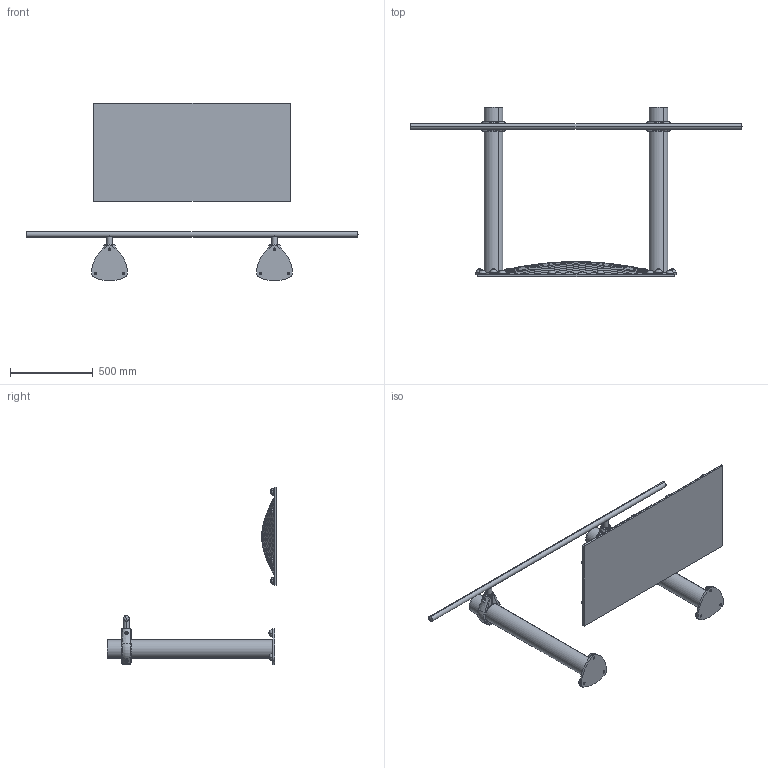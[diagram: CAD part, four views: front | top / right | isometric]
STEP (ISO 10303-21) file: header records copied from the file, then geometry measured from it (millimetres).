
FILE_DESCRIPTION (( 'STEP AP214' ), '1' );
FILE_NAME ('PMS0817 - MARCHE SUR L''EAU.STEP', '2025-05-20T08:39:39', ( '' ), ( '' ), 'SwSTEP 2.0', 'SolidWorks 2024', '' );
FILE_SCHEMA (( 'AUTOMOTIVE_DESIGN' ));
Products named in the file (1): PMS0817 - MARCHE SUR L''EAU
Bounding box: 2012 x 1025 x 1076.88 mm (x, y, z)
Surface area: 2819429.9 mm2 (no closed solid volume)
Topology: 0 solids, 75 shells, 939 faces, 5129 edges, 3956 vertices
Faces by surface type: bspline 596, cylinder 142, plane 122, sphere 38, torus 32, cone 9
Entity records: 176981 total; most frequent: CARTESIAN_POINT 148289, ORIENTED_EDGE 6964, EDGE_CURVE 5121, VERTEX_POINT 3956, B_SPLINE_CURVE_WITH_KNOTS 3913, DIRECTION 2388, EDGE_LOOP 1001, AXIS2_PLACEMENT_3D 956
